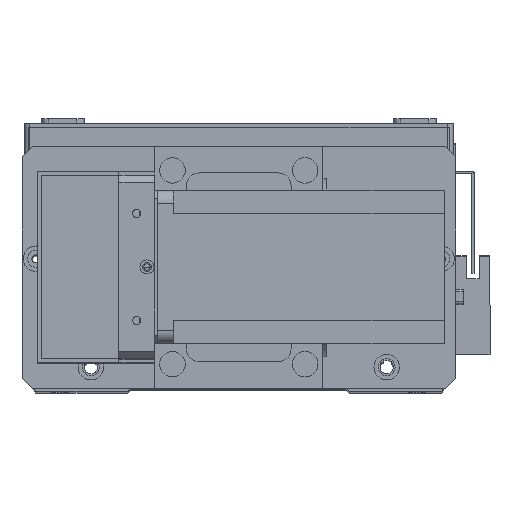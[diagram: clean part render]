
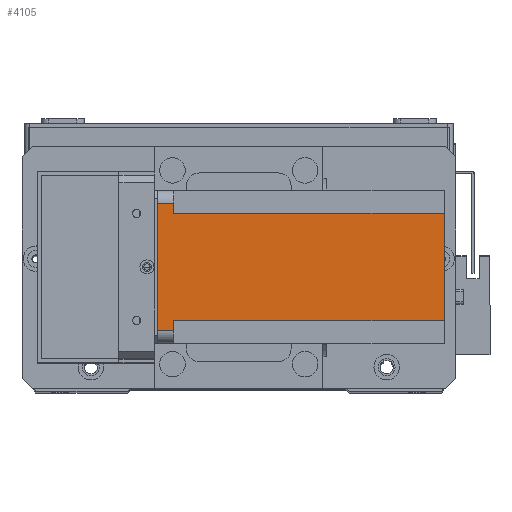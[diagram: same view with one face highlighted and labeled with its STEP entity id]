
A CAD part, top view. The second image highlights one B-rep face of the part: STEP entity #4105.
In plain terms, the highlighted planar face has unit normal (0, 0, 1) as drawn and (-1, 0, 0) by its records, which use the part's own axes.
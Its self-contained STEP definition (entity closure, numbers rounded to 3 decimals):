
#191 = ORIENTED_EDGE ( 'NONE', *, *, #3597, .T. ) ;
#1105 = ORIENTED_EDGE ( 'NONE', *, *, #26945, .F. ) ;
#1654 = EDGE_LOOP ( 'NONE', ( #17574, #191, #21089, #23803, #7754, #30911, #27747, #1105 ) ) ;
#1882 = LINE ( 'NONE', #15881, #20170 ) ;
#1971 = CARTESIAN_POINT ( 'NONE',  ( 0., 60., -6.5 ) ) ;
#3080 = VERTEX_POINT ( 'NONE', #15575 ) ;
#3597 = EDGE_CURVE ( 'NONE', #8290, #11860, #4794, .T. ) ;
#4105 = ADVANCED_FACE ( 'NONE', ( #14487 ), #22695, .T. ) ;
#4195 = CARTESIAN_POINT ( 'NONE',  ( 0., 9., -112.5 ) ) ;
#4794 = LINE ( 'NONE', #15348, #28642 ) ;
#5221 = VERTEX_POINT ( 'NONE', #4195 ) ;
#5242 = VECTOR ( 'NONE', #18666, 1000. ) ;
#5243 = VECTOR ( 'NONE', #14291, 1000. ) ;
#5691 = EDGE_CURVE ( 'NONE', #3080, #9637, #22771, .T. ) ;
#6851 = EDGE_CURVE ( 'NONE', #21019, #9637, #9639, .T. ) ;
#7754 = ORIENTED_EDGE ( 'NONE', *, *, #5691, .F. ) ;
#8290 = VERTEX_POINT ( 'NONE', #22544 ) ;
#8442 = DIRECTION ( 'NONE',  ( 0., 0., 1. ) ) ;
#9637 = VERTEX_POINT ( 'NONE', #19905 ) ;
#9639 = LINE ( 'NONE', #24279, #27903 ) ;
#10734 = CARTESIAN_POINT ( 'NONE',  ( 0., 5., 0. ) ) ;
#11058 = VECTOR ( 'NONE', #23479, 1000. ) ;
#11611 = LINE ( 'NONE', #26136, #5243 ) ;
#11626 = CARTESIAN_POINT ( 'NONE',  ( 0., 0., 0. ) ) ;
#11860 = VERTEX_POINT ( 'NONE', #10734 ) ;
#13220 = VERTEX_POINT ( 'NONE', #23327 ) ;
#13244 = DIRECTION ( 'NONE',  ( 0., -1., 0. ) ) ;
#13347 = EDGE_CURVE ( 'NONE', #13220, #3080, #11611, .T. ) ;
#14291 = DIRECTION ( 'NONE',  ( 0., 0., 1. ) ) ;
#14487 = FACE_OUTER_BOUND ( 'NONE', #1654, .T. ) ;
#14828 = DIRECTION ( 'NONE',  ( 0., 0., -1. ) ) ;
#15169 = CARTESIAN_POINT ( 'NONE',  ( 0., 55., 0. ) ) ;
#15348 = CARTESIAN_POINT ( 'NONE',  ( 0., 5., -112.5 ) ) ;
#15575 = CARTESIAN_POINT ( 'NONE',  ( 0., 51., -6.5 ) ) ;
#15881 = CARTESIAN_POINT ( 'NONE',  ( 0., 0., -112.5 ) ) ;
#15929 = VECTOR ( 'NONE', #22425, 1000. ) ;
#16650 = VECTOR ( 'NONE', #17527, 1000. ) ;
#17317 = AXIS2_PLACEMENT_3D ( 'NONE', #25106, #27492, #13244 ) ;
#17527 = DIRECTION ( 'NONE',  ( 0., 1., 0. ) ) ;
#17574 = ORIENTED_EDGE ( 'NONE', *, *, #26921, .F. ) ;
#18666 = DIRECTION ( 'NONE',  ( 0., 1., 0. ) ) ;
#19327 = EDGE_CURVE ( 'NONE', #13220, #5221, #1882, .T. ) ;
#19905 = CARTESIAN_POINT ( 'NONE',  ( 0., 55., -6.5 ) ) ;
#20170 = VECTOR ( 'NONE', #25252, 1000. ) ;
#21019 = VERTEX_POINT ( 'NONE', #15169 ) ;
#21089 = ORIENTED_EDGE ( 'NONE', *, *, #26638, .F. ) ;
#22425 = DIRECTION ( 'NONE',  ( 0., 0., -1. ) ) ;
#22544 = CARTESIAN_POINT ( 'NONE',  ( 0., 5., -6.5 ) ) ;
#22695 = PLANE ( 'NONE',  #17317 ) ;
#22771 = LINE ( 'NONE', #1971, #5242 ) ;
#22974 = CARTESIAN_POINT ( 'NONE',  ( 0., 9., -6.5 ) ) ;
#22997 = LINE ( 'NONE', #26993, #16650 ) ;
#23327 = CARTESIAN_POINT ( 'NONE',  ( 0., 51., -112.5 ) ) ;
#23479 = DIRECTION ( 'NONE',  ( 0., -1., 0. ) ) ;
#23803 = ORIENTED_EDGE ( 'NONE', *, *, #6851, .T. ) ;
#24279 = CARTESIAN_POINT ( 'NONE',  ( 0., 55., -112.5 ) ) ;
#24614 = CARTESIAN_POINT ( 'NONE',  ( 0., 9., -112.5 ) ) ;
#25106 = CARTESIAN_POINT ( 'NONE',  ( 0., 0., -112.5 ) ) ;
#25252 = DIRECTION ( 'NONE',  ( 0., -1., 0. ) ) ;
#26136 = CARTESIAN_POINT ( 'NONE',  ( 0., 51., -112.5 ) ) ;
#26485 = VERTEX_POINT ( 'NONE', #22974 ) ;
#26638 = EDGE_CURVE ( 'NONE', #21019, #11860, #30056, .T. ) ;
#26921 = EDGE_CURVE ( 'NONE', #8290, #26485, #22997, .T. ) ;
#26945 = EDGE_CURVE ( 'NONE', #26485, #5221, #30092, .T. ) ;
#26993 = CARTESIAN_POINT ( 'NONE',  ( 0., 0., -6.5 ) ) ;
#27492 = DIRECTION ( 'NONE',  ( -1., 0., 0. ) ) ;
#27747 = ORIENTED_EDGE ( 'NONE', *, *, #19327, .T. ) ;
#27903 = VECTOR ( 'NONE', #14828, 1000. ) ;
#28642 = VECTOR ( 'NONE', #8442, 1000. ) ;
#30056 = LINE ( 'NONE', #11626, #11058 ) ;
#30092 = LINE ( 'NONE', #24614, #15929 ) ;
#30911 = ORIENTED_EDGE ( 'NONE', *, *, #13347, .F. ) ;
